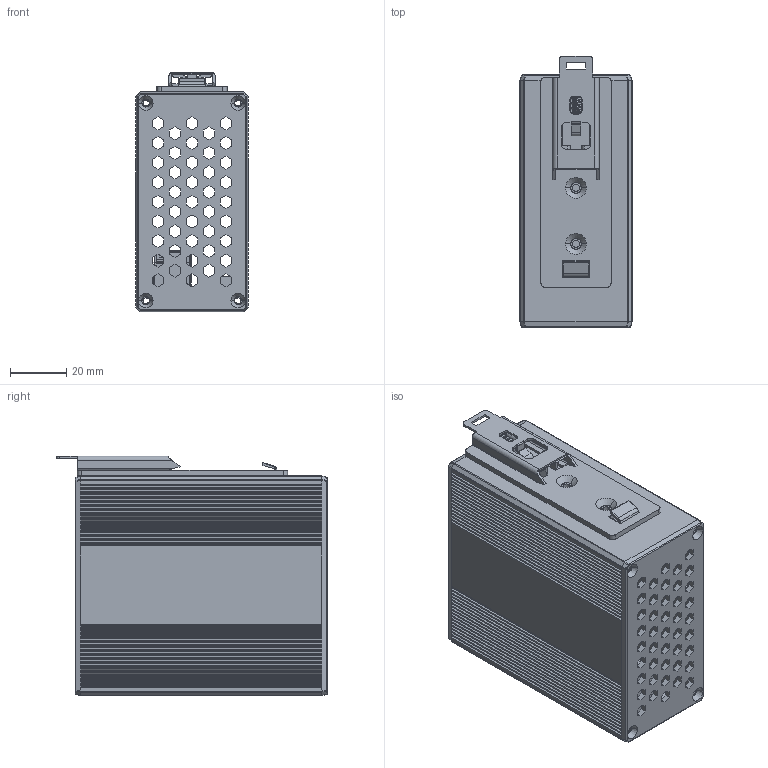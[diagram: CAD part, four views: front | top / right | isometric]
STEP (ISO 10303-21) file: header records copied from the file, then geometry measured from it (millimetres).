
FILE_DESCRIPTION((''),'2;1');
FILE_NAME('SW-ECP04A_1__ASM','2026-07-10T16:47:04',('Administrator'),(''),'CREO PARAMETRIC BY PTC INC, 2022073','CREO PARAMETRIC BY PTC INC, 2022073','');
FILE_SCHEMA(('CONFIG_CONTROL_DESIGN'));
Products named in the file (4): 111_SW0001_1_1; 111_SW0001_1_2; 111_SW0001_1_ASM; SW-ECP04A_1__ASM
Assembly tree (3 placements, depth 3):
  SW-ECP04A_1__ASM
    111_SW0001_1_ASM
      111_SW0001_1_1
      111_SW0001_1_2
Bounding box: 40 x 96.6 x 85.55 mm (x, y, z)
Volume: 81558.4 mm3; surface area: 108978.9 mm2
Topology: 2 solids, 2 shells, 4920 faces, 13906 edges, 8933 vertices
Faces by surface type: plane 3443, cylinder 1105, cone 141, torus 126, bspline 103, sphere 2
Entity records: 168445 total; most frequent: CARTESIAN_POINT 40787, ORIENTED_EDGE 27784, DIRECTION 24812, EDGE_CURVE 13892, VECTOR 10522, LINE 10522, VERTEX_POINT 8927, AXIS2_PLACEMENT_3D 7145
